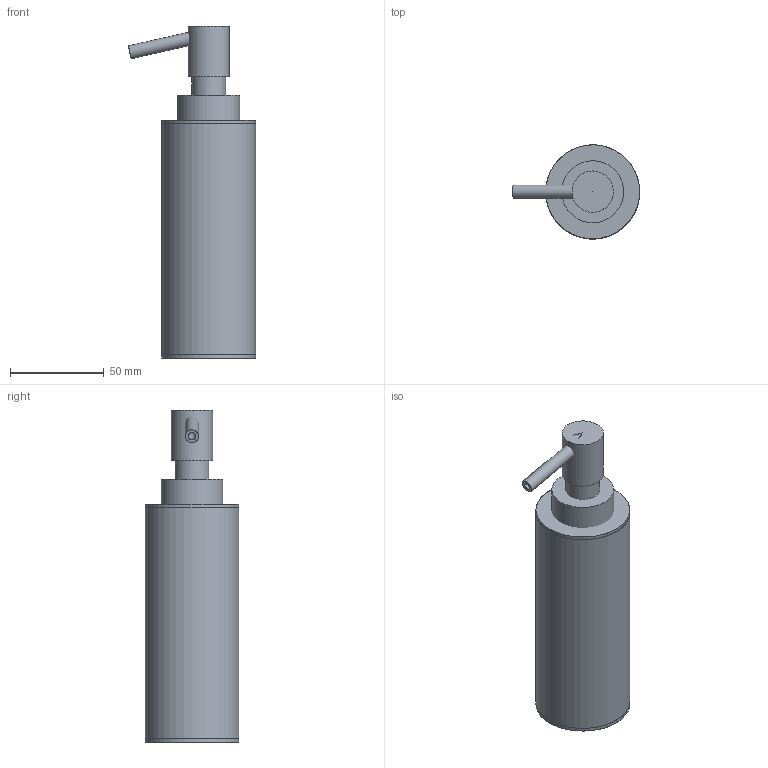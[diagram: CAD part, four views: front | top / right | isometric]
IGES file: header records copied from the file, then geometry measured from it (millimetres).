
Global section: file name: C:\Documents and Settings\Filippo\Desktop\INCOMPLETI\AM727.igs; native system: Rhinoceros ( Dec 20 2002 ); preprocessor: Trout Lake IGES 012 Dec 20 2002; date: 100603.071311; units: millimetre
Bounding box: 67.77 x 50 x 176.75 mm (x, y, z)
Surface area: 42106.4 mm2 (no closed solid volume)
Topology: 0 solids, 0 shells, 29 faces, 121 edges, 104 vertices
Faces by surface type: bspline 29
